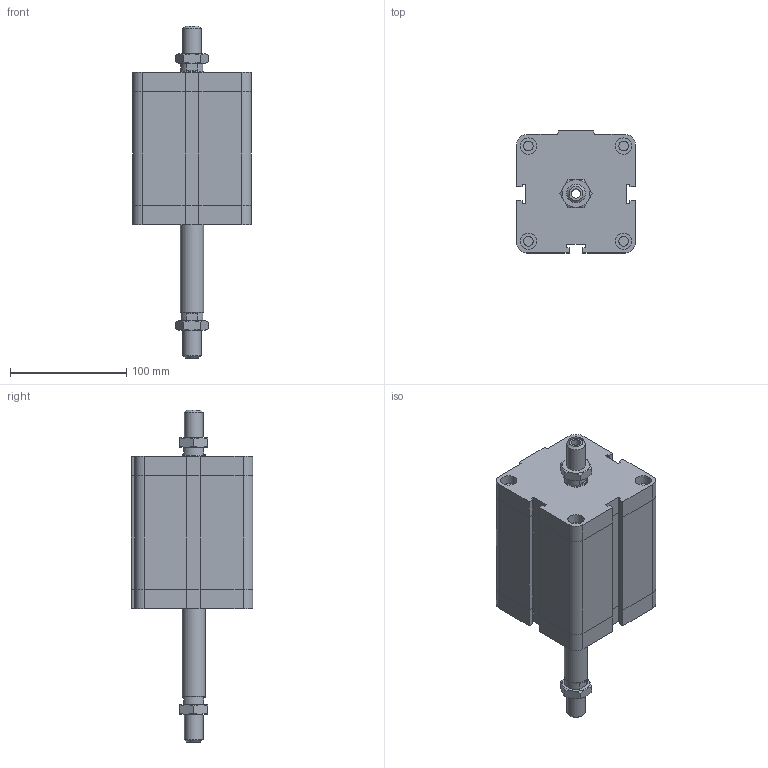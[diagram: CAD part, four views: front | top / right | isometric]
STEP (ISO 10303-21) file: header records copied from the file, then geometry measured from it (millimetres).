
FILE_DESCRIPTION((''),'2;1');
FILE_NAME('I:\Area Tecnica\Disegni\VARIE-3D\Componenti\EUROPE\15##_###_####_05_#\1581_80_0075_05_1.iam.stp','2009-04-20T15:03:17',(''),(''),'Autodesk Inventor 2009','Autodesk Inventor 2009','');
FILE_SCHEMA(('AUTOMOTIVE_DESIGN { 1 0 10303 214 1 1 1 1 }'));
Length unit declared in the file: millimetre
Products named in the file (4): 1581_80_0075_05_1; 1581_80_0075_03_1_C; 1561_80_0075_05_1_S; DBFM16
Assembly tree (4 placements, depth 2):
  1581_80_0075_05_1
    1581_80_0075_03_1_C
    1561_80_0075_05_1_S
    DBFM16  x2
Bounding box: 102 x 105 x 286 mm (x, y, z)
Volume: 1340407.3 mm3; surface area: 123752 mm2
Topology: 4 solids, 4 shells, 223 faces, 486 edges, 291 vertices
Faces by surface type: plane 129, cone 37, bspline 32, cylinder 25
Full cylindrical faces by diameter (mm): 8.376 x4, 14 x4, 14.5 x1, 16 x1, 19.5 x2, 20 x1
Entity records: 5484 total; most frequent: CARTESIAN_POINT 1227, DIRECTION 808, ORIENTED_EDGE 776, EDGE_CURVE 388, AXIS2_PLACEMENT_3D 275, EDGE_LOOP 262, VECTOR 258, LINE 258
